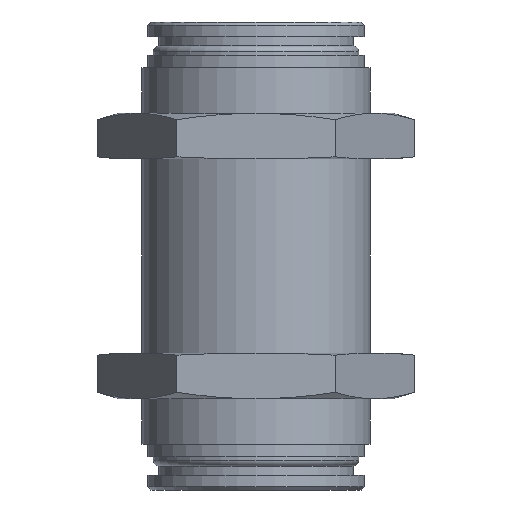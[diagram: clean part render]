
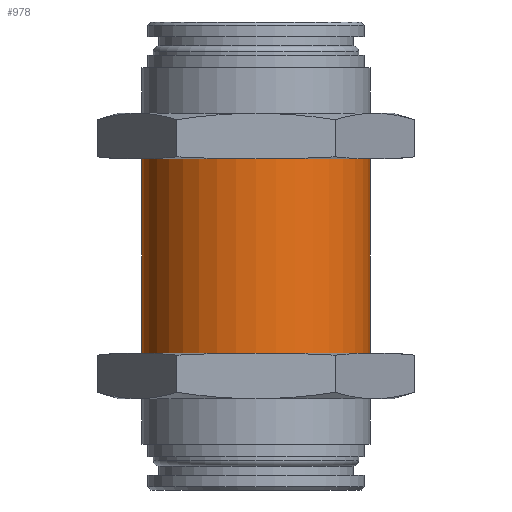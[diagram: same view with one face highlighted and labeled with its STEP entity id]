
A CAD part, front view. The second image highlights one B-rep face of the part: STEP entity #978.
In plain terms, the highlighted cylindrical face has radius 10 mm (diameter 20 mm), a full revolution.
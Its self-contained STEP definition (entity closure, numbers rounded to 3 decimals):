
#198=FACE_OUTER_BOUND('',#280,.T.);
#280=EDGE_LOOP('',(#893,#894,#895,#896));
#308=LINE('',#1808,#336);
#336=VECTOR('',#1421,10.);
#368=CIRCLE('',#1063,10.);
#398=CIRCLE('',#1126,10.);
#441=VERTEX_POINT('',#1610);
#482=VERTEX_POINT('',#1799);
#550=EDGE_CURVE('',#441,#441,#368,.T.);
#617=EDGE_CURVE('',#482,#482,#398,.T.);
#620=EDGE_CURVE('',#482,#441,#308,.T.);
#893=ORIENTED_EDGE('',*,*,#617,.F.);
#894=ORIENTED_EDGE('',*,*,#620,.T.);
#895=ORIENTED_EDGE('',*,*,#550,.T.);
#896=ORIENTED_EDGE('',*,*,#620,.F.);
#910=CYLINDRICAL_SURFACE('',#1131,10.);
#978=ADVANCED_FACE('',(#198),#910,.T.);
#1063=AXIS2_PLACEMENT_3D('',#1611,#1268,#1269);
#1126=AXIS2_PLACEMENT_3D('',#1800,#1407,#1408);
#1131=AXIS2_PLACEMENT_3D('',#1807,#1419,#1420);
#1268=DIRECTION('center_axis',(0.,0.,1.));
#1269=DIRECTION('ref_axis',(1.,0.,0.));
#1407=DIRECTION('center_axis',(0.,0.,1.));
#1408=DIRECTION('ref_axis',(1.,0.,0.));
#1419=DIRECTION('center_axis',(0.,0.,1.));
#1420=DIRECTION('ref_axis',(1.,0.,0.));
#1421=DIRECTION('',(0.,0.,-1.));
#1610=CARTESIAN_POINT('',(-10.,0.,-8.5));
#1611=CARTESIAN_POINT('Origin',(0.,0.,-8.5));
#1799=CARTESIAN_POINT('',(-10.,0.,8.5));
#1800=CARTESIAN_POINT('Origin',(0.,0.,8.5));
#1807=CARTESIAN_POINT('Origin',(0.,0.,0.));
#1808=CARTESIAN_POINT('',(-10.,0.,0.));
